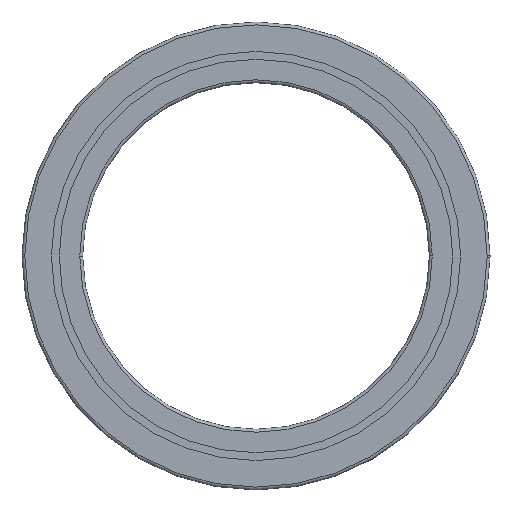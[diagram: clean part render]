
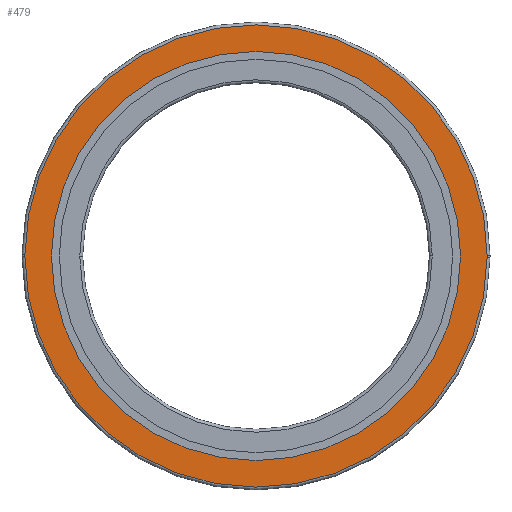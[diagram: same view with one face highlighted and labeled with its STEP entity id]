
A CAD part, front view. The second image highlights one B-rep face of the part: STEP entity #479.
In plain terms, the highlighted planar face has unit normal (0, -1, 0).
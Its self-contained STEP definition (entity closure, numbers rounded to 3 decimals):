
#327=EDGE_CURVE('',#339,#687,#866,.T.);
#339=VERTEX_POINT('',#879);
#417=EDGE_CURVE('',#731,#553,#965,.T.);
#421=VERTEX_POINT('',#969);
#479=ADVANCED_FACE('',(#1036,#1037),#1038,.F.);
#535=EDGE_CURVE('',#739,#421,#1099,.T.);
#553=VERTEX_POINT('',#1117);
#593=EDGE_CURVE('',#421,#739,#1163,.T.);
#687=VERTEX_POINT('',#1269);
#707=EDGE_CURVE('',#553,#339,#1292,.T.);
#731=VERTEX_POINT('',#1319);
#739=VERTEX_POINT('',#1328);
#771=EDGE_CURVE('',#687,#731,#1368,.T.);
#866=CIRCLE('',#1473,200.0);
#879=CARTESIAN_POINT('',(200.0,0.0,0.0));
#965=CIRCLE('',#1603,200.0);
#969=CARTESIAN_POINT('',(177.0,0.0,0.));
#1036=FACE_OUTER_BOUND('',#1690,.T.);
#1037=FACE_BOUND('',#1691,.T.);
#1038=PLANE('',#1692);
#1099=CIRCLE('',#1766,177.0);
#1117=CARTESIAN_POINT('',(199.996,0.0,-1.236));
#1163=CIRCLE('',#1848,177.0);
#1269=CARTESIAN_POINT('',(-199.996,0.0,1.236));
#1292=CIRCLE('',#2005,200.0);
#1319=CARTESIAN_POINT('',(-200.0,0.0,0.));
#1328=CARTESIAN_POINT('',(-177.0,0.0,0.0));
#1368=CIRCLE('',#2096,200.0);
#1473=AXIS2_PLACEMENT_3D('',#2183,#2184,#2185);
#1603=AXIS2_PLACEMENT_3D('',#2322,#2323,#2324);
#1690=EDGE_LOOP('',(#2437,#2438,#2439,#2440));
#1691=EDGE_LOOP('',(#2441,#2442));
#1692=AXIS2_PLACEMENT_3D('',#2443,#2444,#2445);
#1766=AXIS2_PLACEMENT_3D('',#2517,#2518,#2519);
#1848=AXIS2_PLACEMENT_3D('',#2590,#2591,#2592);
#2005=AXIS2_PLACEMENT_3D('',#2769,#2770,#2771);
#2096=AXIS2_PLACEMENT_3D('',#2879,#2880,#2881);
#2183=CARTESIAN_POINT('',(0.0,0.0,0.0));
#2184=DIRECTION('',(0.0,-1.0,0.0));
#2185=DIRECTION('',(1.0,0.0,0.0));
#2322=CARTESIAN_POINT('',(0.0,0.0,0.0));
#2323=DIRECTION('',(0.0,-1.0,0.0));
#2324=DIRECTION('',(-1.0,0.0,0.0));
#2437=ORIENTED_EDGE('',*,*,#327,.T.);
#2438=ORIENTED_EDGE('',*,*,#771,.T.);
#2439=ORIENTED_EDGE('',*,*,#417,.T.);
#2440=ORIENTED_EDGE('',*,*,#707,.T.);
#2441=ORIENTED_EDGE('',*,*,#535,.F.);
#2442=ORIENTED_EDGE('',*,*,#593,.F.);
#2443=CARTESIAN_POINT('',(0.0,0.0,0.0));
#2444=DIRECTION('',(0.0,1.0,0.0));
#2445=DIRECTION('',(1.0,0.0,-0.0));
#2517=CARTESIAN_POINT('',(0.0,0.0,0.0));
#2518=DIRECTION('',(0.0,-1.0,0.0));
#2519=DIRECTION('',(-1.0,0.0,0.0));
#2590=CARTESIAN_POINT('',(0.0,0.0,0.0));
#2591=DIRECTION('',(0.0,-1.0,0.0));
#2592=DIRECTION('',(1.0,0.0,0.0));
#2769=CARTESIAN_POINT('',(0.0,0.0,0.0));
#2770=DIRECTION('',(0.0,-1.0,0.0));
#2771=DIRECTION('',(-1.0,0.0,0.0));
#2879=CARTESIAN_POINT('',(0.0,0.0,0.0));
#2880=DIRECTION('',(0.0,-1.0,0.0));
#2881=DIRECTION('',(1.0,0.0,0.0));
